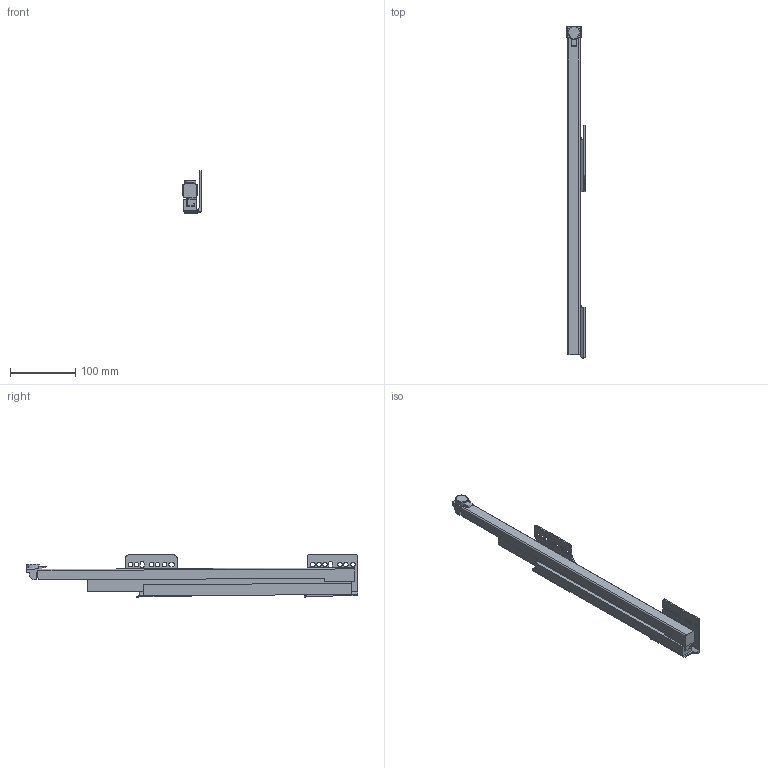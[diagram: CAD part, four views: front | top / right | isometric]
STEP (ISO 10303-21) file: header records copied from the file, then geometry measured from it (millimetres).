
FILE_DESCRIPTION (( 'STEP AP214' ), '1' );
FILE_NAME ('_IMOS_NOVA-Pro_KS_TL_EB29mm_RE_NL500.step', '2010-07-15T11:34:49', ( 'grass' ), ( '' ), 'SwSTEP 2.0', 'SolidWorks 2009', '' );
FILE_SCHEMA (( 'AUTOMOTIVE_DESIGN' ));
Length unit declared in the file: millimetre
Products named in the file (1): _IMOS_NOVA-Pro_KS_TL_EB29mm_RE_NL500
Bounding box: 27.95 x 507.46 x 64.46 mm (x, y, z)
Volume: 340920.9 mm3; surface area: 142757 mm2
Topology: 8 solids, 8 shells, 185 faces, 496 edges, 328 vertices
Faces by surface type: plane 116, cylinder 64, torus 5
Entity records: 5964 total; most frequent: CARTESIAN_POINT 1097, ORIENTED_EDGE 992, DIRECTION 972, EDGE_CURVE 496, LINE 350, VECTOR 350, VERTEX_POINT 328, AXIS2_PLACEMENT_3D 311
